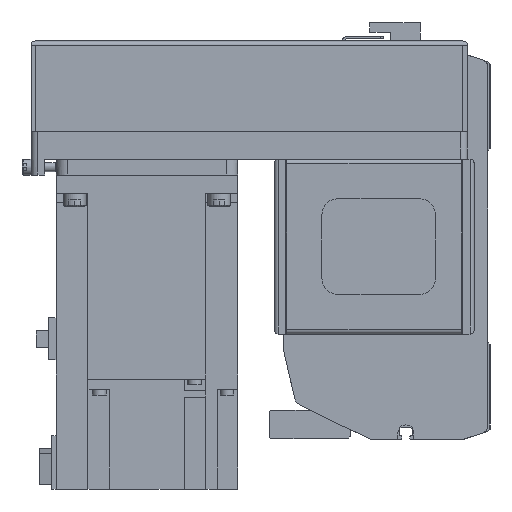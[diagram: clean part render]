
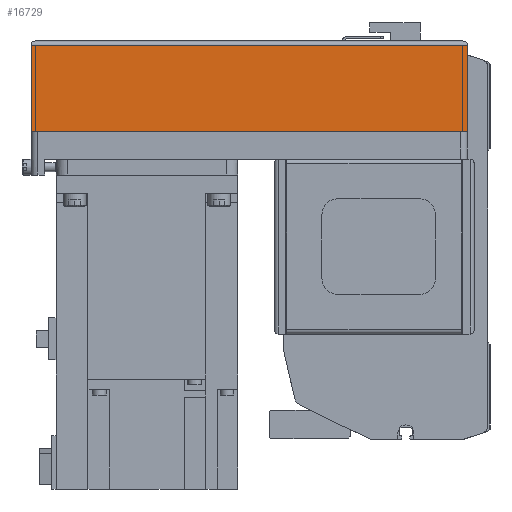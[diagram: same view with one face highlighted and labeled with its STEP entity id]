
A CAD part, left-side view. The second image highlights one B-rep face of the part: STEP entity #16729.
In plain terms, the highlighted planar face has unit normal (-1, 0, 0) as drawn and (0, 1, 0) by its records, which use the part's own axes.
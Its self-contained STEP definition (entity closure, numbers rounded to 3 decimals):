
#2646=ORIENTED_EDGE('',*,*,#6777,.F.);
#2647=ORIENTED_EDGE('',*,*,#6817,.F.);
#2648=ORIENTED_EDGE('',*,*,#6754,.T.);
#2649=ORIENTED_EDGE('',*,*,#6767,.T.);
#6754=EDGE_CURVE('',#8983,#8986,#10698,.T.);
#6767=EDGE_CURVE('',#8986,#8998,#10711,.T.);
#6777=EDGE_CURVE('',#9006,#8998,#10721,.T.);
#6817=EDGE_CURVE('',#8983,#9006,#10739,.T.);
#8983=VERTEX_POINT('',#25734);
#8986=VERTEX_POINT('',#25739);
#8998=VERTEX_POINT('',#25767);
#9006=VERTEX_POINT('',#25787);
#10698=LINE('',#25740,#12294);
#10711=LINE('',#25768,#12307);
#10721=LINE('',#25788,#12317);
#10739=LINE('',#25858,#12335);
#12294=VECTOR('',#20598,1000.);
#12307=VECTOR('',#20617,1000.);
#12317=VECTOR('',#20631,1000.);
#12335=VECTOR('',#20725,1000.);
#13747=EDGE_LOOP('',(#2646,#2647,#2648,#2649));
#14969=FACE_BOUND('',#13747,.T.);
#16024=PLANE('',#17940);
#16729=ADVANCED_FACE('',(#14969),#16024,.T.);
#17940=AXIS2_PLACEMENT_3D('',#25857,#20723,#20724);
#20598=DIRECTION('',(0.,0.,1.));
#20617=DIRECTION('',(1.,0.,0.));
#20631=DIRECTION('',(0.,0.,1.));
#20723=DIRECTION('',(0.,1.,0.));
#20724=DIRECTION('',(0.,0.,1.));
#20725=DIRECTION('',(1.,0.,0.));
#25734=CARTESIAN_POINT('',(-192.,40.,-50.));
#25739=CARTESIAN_POINT('',(-192.,40.,-12.1));
#25740=CARTESIAN_POINT('',(-192.,40.,-50.));
#25767=CARTESIAN_POINT('',(0.,40.,-12.1));
#25768=CARTESIAN_POINT('',(-192.,40.,-12.1));
#25787=CARTESIAN_POINT('',(0.,40.,-50.));
#25788=CARTESIAN_POINT('',(0.,40.,-50.));
#25857=CARTESIAN_POINT('',(-192.,40.,-50.));
#25858=CARTESIAN_POINT('',(-192.,40.,-50.));
